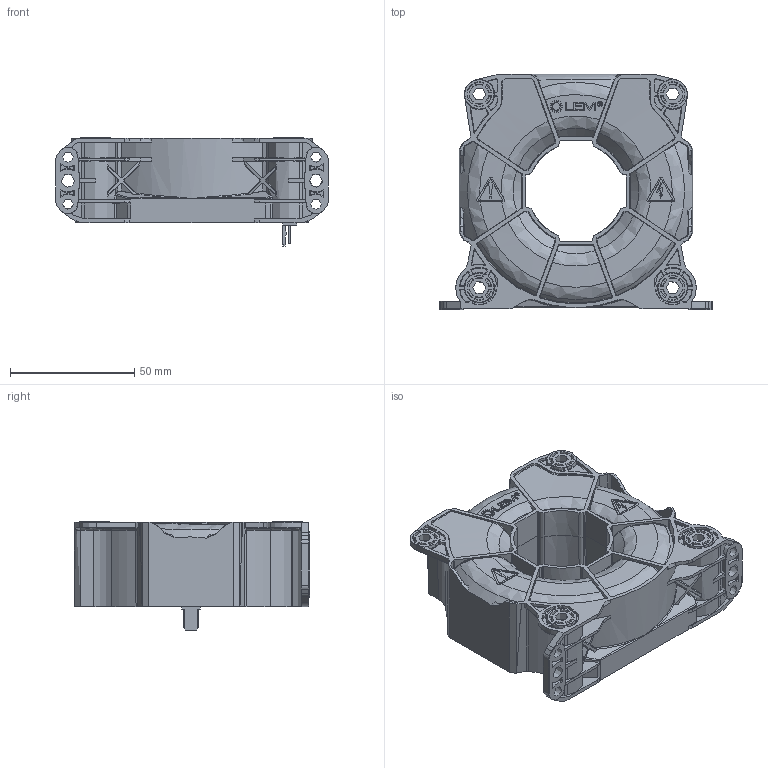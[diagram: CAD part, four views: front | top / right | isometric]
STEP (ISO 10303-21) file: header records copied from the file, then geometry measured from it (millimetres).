
FILE_DESCRIPTION(('Creo Elements/Direct Modeling STEP Export'),'2;1');
FILE_NAME('Blackbox_LF_1010_A.stp','2014-09-25T12:11:12',(''),(''),'Creo Elements/Direct Modeling STEP processor for AP214 (Solid Model)','Creo Elements/Direct Modeling 17.0C 05-Feb-2011 (C) Parametric Technology GmbH','');
FILE_SCHEMA(('AUTOMOTIVE_DESIGN { 1 0 10303 214 1 1 1 1 }'));
Products named in the file (2): LF_1010_OUTLINE_A
Assembly tree (1 placements, depth 2):
  LF_1010_OUTLINE_A
    LF_1010_OUTLINE_A
Bounding box: 110 x 94.8 x 43.9 mm (x, y, z)
Volume: 203990.7 mm3; surface area: 38465.7 mm2
Topology: 1 solids, 2 shells, 2359 faces, 5978 edges, 3669 vertices
Faces by surface type: bspline 896, plane 625, cylinder 570, cone 166, torus 100, sphere 2
Entity records: 156103 total; most frequent: CARTESIAN_POINT 103100, ORIENTED_EDGE 11902, DIRECTION 9375, EDGE_CURVE 5951, VERTEX_POINT 3669, AXIS2_PLACEMENT_3D 3622, EDGE_LOOP 2454, FACE_OUTER_BOUND 2359
